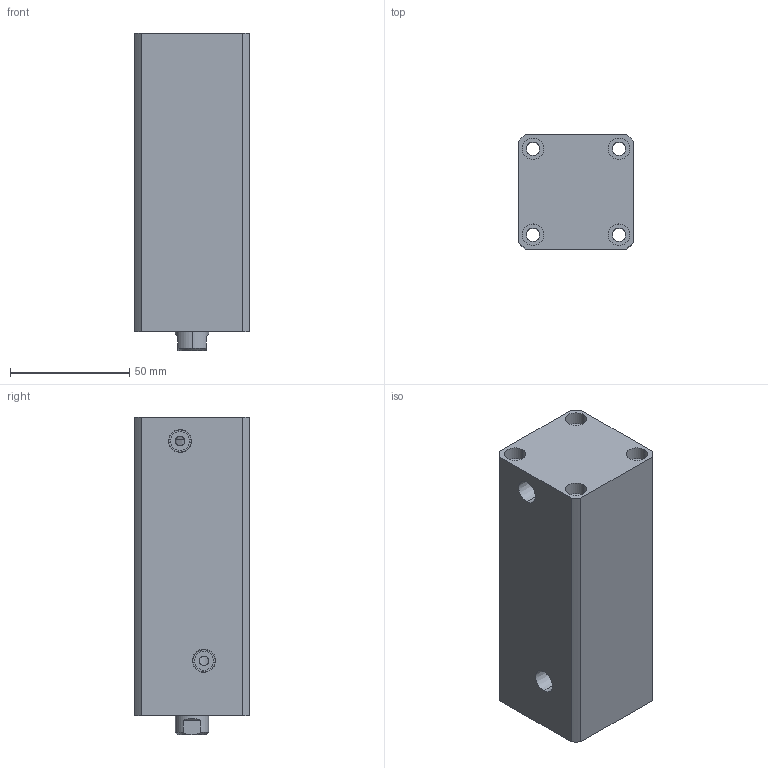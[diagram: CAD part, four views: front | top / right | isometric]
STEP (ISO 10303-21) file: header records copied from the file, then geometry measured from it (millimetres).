
FILE_DESCRIPTION (( 'STEP AP214' ), '1' );
FILE_NAME ('chtb-sd25x80n_asm.STEP', '2018-05-22T12:45:25', ( 'Windows' ), ( 'Microsoft' ), 'SwSTEP 2.0', 'SolidWorks 2015', '' );
FILE_SCHEMA (( 'AUTOMOTIVE_DESIGN' ));
Length unit declared in the file: millimetre
Products named in the file (4): CHTB-SD25X80NHSG; CHTB-SD25X80NBT; CHTB-25QG; chtb-sd25x80n_asm
Assembly tree (3 placements, depth 2):
  chtb-sd25x80n_asm
    CHTB-25QG
    CHTB-SD25X80NBT
    CHTB-SD25X80NHSG
Bounding box: 48 x 48 x 133 mm (x, y, z)
Volume: 242541.3 mm3; surface area: 60014.1 mm2
Topology: 3 solids, 3 shells, 144 faces, 377 edges, 257 vertices
Faces by surface type: cylinder 85, plane 36, cone 13, bspline 10
Entity records: 7940 total; most frequent: CARTESIAN_POINT 4299, ORIENTED_EDGE 742, DIRECTION 671, EDGE_CURVE 371, AXIS2_PLACEMENT_3D 278, VERTEX_POINT 257, EDGE_LOOP 182, ADVANCED_FACE 144
